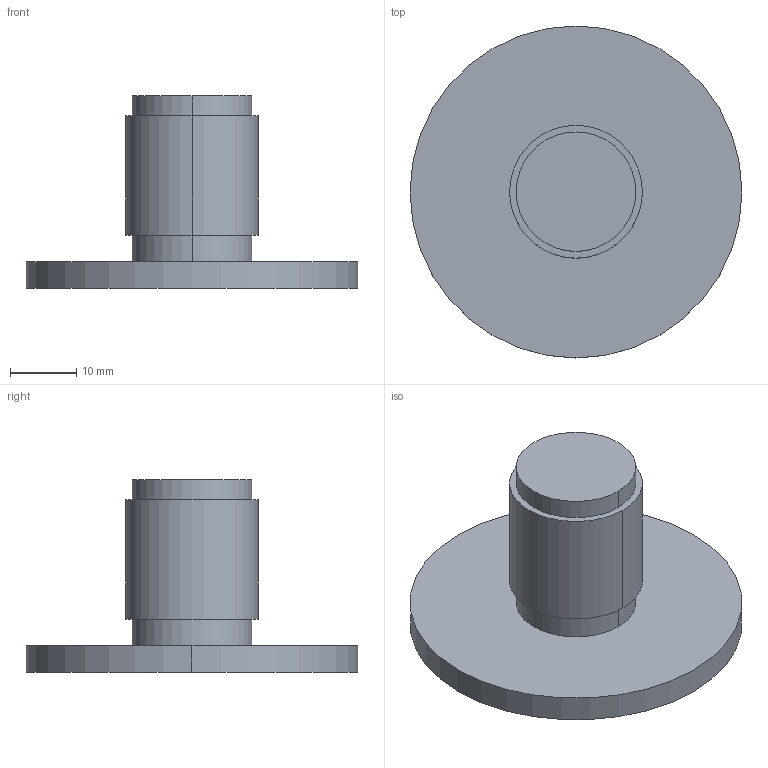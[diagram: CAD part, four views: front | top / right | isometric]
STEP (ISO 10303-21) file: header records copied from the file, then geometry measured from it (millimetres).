
FILE_DESCRIPTION (( 'STEP AP203' ), '1' );
FILE_NAME ('Thumb Turn Lock Side 1.STEP', '2016-10-12T15:34:57', ( '' ), ( '' ), 'SwSTEP 2.0', 'SolidWorks 2014', '' );
FILE_SCHEMA (( 'CONFIG_CONTROL_DESIGN' ));
Length unit declared in the file: millimetre
Products named in the file (1): Thumb Turn Lock Side 1
Bounding box: 50 x 50 x 29 mm (x, y, z)
Volume: 15290.1 mm3; surface area: 6201.5 mm2
Topology: 1 solids, 1 shells, 13 faces, 24 edges, 16 vertices
Faces by surface type: cylinder 8, plane 5
Entity records: 411 total; most frequent: DIRECTION 68, CARTESIAN_POINT 54, ORIENTED_EDGE 48, AXIS2_PLACEMENT_3D 30, EDGE_CURVE 24, VERTEX_POINT 16, CIRCLE 16, EDGE_LOOP 16
